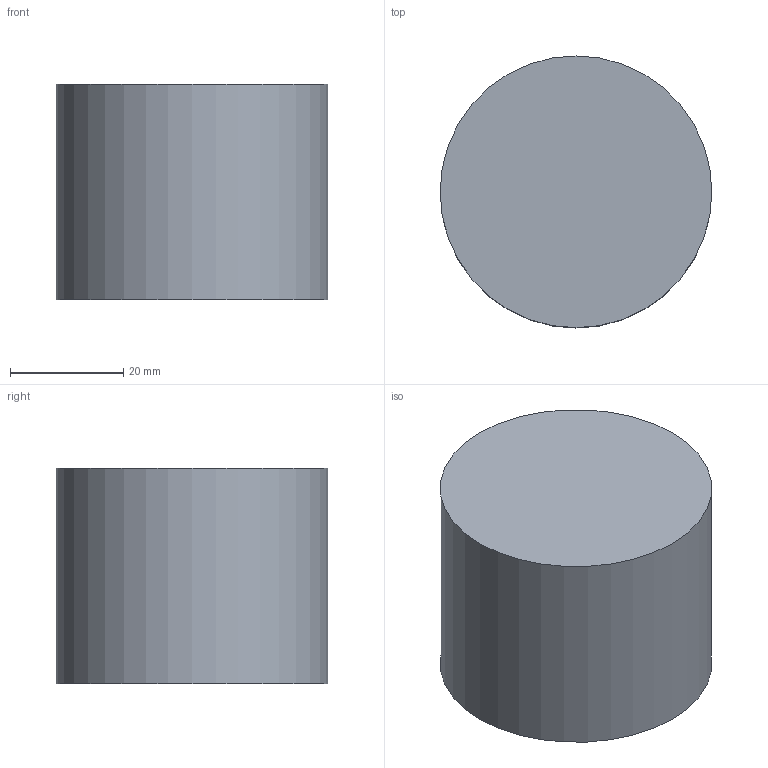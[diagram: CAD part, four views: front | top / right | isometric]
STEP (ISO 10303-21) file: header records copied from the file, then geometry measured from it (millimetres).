
FILE_DESCRIPTION(('Open CASCADE Model'),'2;1');
FILE_NAME('Open CASCADE Shape Model','2026-10-04T01:02:34',('Author'),( 'Open CASCADE'),'Open CASCADE STEP processor 8.0','Open CASCADE 8.0' ,'Unknown');
FILE_SCHEMA(('AUTOMOTIVE_DESIGN { 1 0 10303 214 1 1 1 1 }'));
Length unit declared in the file: millimetre
Products named in the file (1): Open CASCADE STEP translator 8.0 373
Bounding box: 48 x 48 x 38 mm (x, y, z)
Volume: 68763.2 mm3; surface area: 9349.4 mm2
Topology: 1 solids, 1 shells, 3 faces, 3 edges, 2 vertices
Faces by surface type: plane 2, cylinder 1
Full cylindrical faces by diameter (mm): 48 x1
Entity records: 108 total; most frequent: DIRECTION 19, CARTESIAN_POINT 15, AXIS2_PLACEMENT_3D 6, ORIENTED_EDGE 6, PCURVE 6, DEFINITIONAL_REPRESENTATION 6, LINE 5, VECTOR 5
